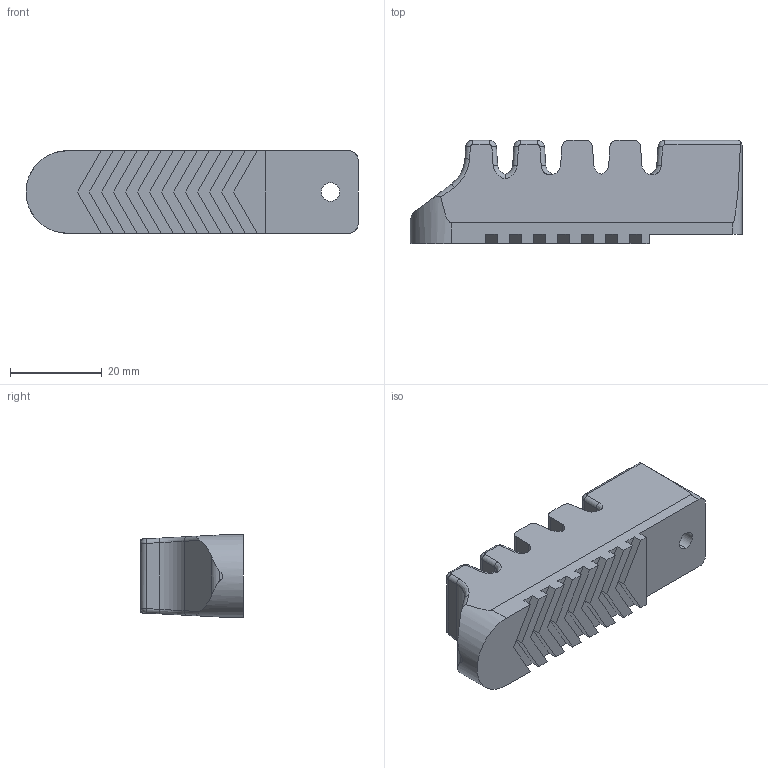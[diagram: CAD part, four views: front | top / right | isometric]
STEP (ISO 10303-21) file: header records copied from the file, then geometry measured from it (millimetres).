
FILE_DESCRIPTION (( 'STEP AP214' ), '1' );
FILE_NAME ('B5.STEP', '2019-12-04T07:21:41', ( '微软用户' ), ( '微软中国' ), 'SwSTEP 2.0', 'SolidWorks 2016', '' );
FILE_SCHEMA (( 'AUTOMOTIVE_DESIGN' ));
Length unit declared in the file: millimetre
Products named in the file (1): B5
Bounding box: 72.53 x 22.5 x 18 mm (x, y, z)
Volume: 22169.4 mm3; surface area: 7120.7 mm2
Topology: 1 solids, 1 shells, 136 faces, 361 edges, 227 vertices
Faces by surface type: plane 66, cylinder 46, bspline 24
Entity records: 7045 total; most frequent: CARTESIAN_POINT 2447, ORIENTED_EDGE 722, DIRECTION 544, EDGE_CURVE 361, LINE 232, VECTOR 232, VERTEX_POINT 227, AXIS2_PLACEMENT_3D 156
